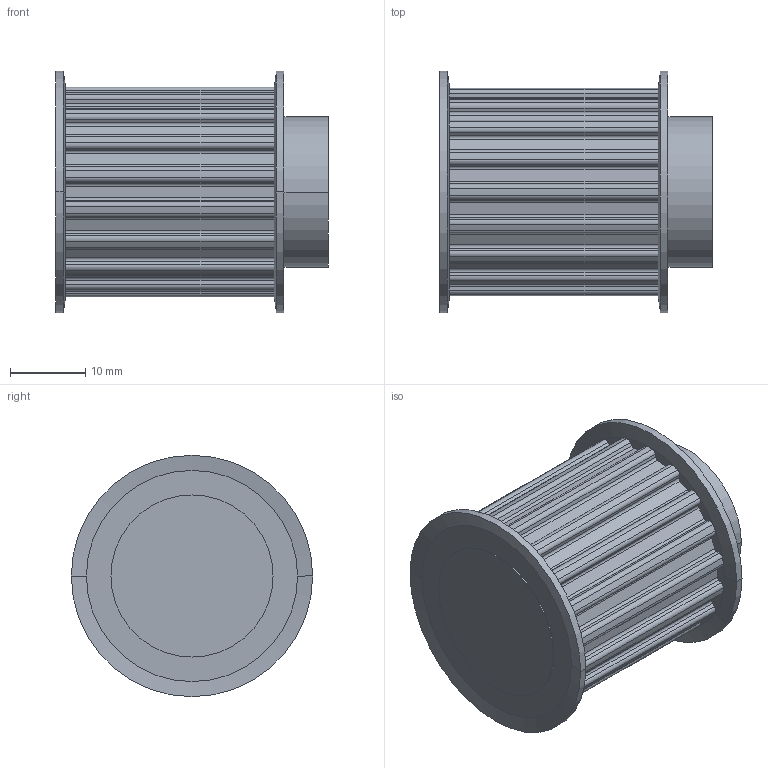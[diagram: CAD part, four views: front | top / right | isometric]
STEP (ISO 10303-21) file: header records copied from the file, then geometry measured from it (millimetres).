
FILE_DESCRIPTION( ( '' ), '1' );
FILE_NAME( 'C:/Users/Stangenbergd/Documents/CAD_Step/1/16241800.stp', '2021-10-19T08:45:35', ( '' ), ( '' ), ' ', ' ', ' ' );
FILE_SCHEMA( ( 'CONFIG_CONTROL_DESIGN' ) );
Length unit declared in the file: millimetre
Products named in the file (1): 1
Bounding box: 36.13 x 32 x 32 mm (x, y, z)
Volume: 18839.9 mm3; surface area: 5737.7 mm2
Topology: 1 solids, 1 shells, 169 faces, 478 edges, 316 vertices
Faces by surface type: cylinder 100, plane 61, cone 8
Entity records: 5600 total; most frequent: DIRECTION 1026, CARTESIAN_POINT 964, ORIENTED_EDGE 956, EDGE_CURVE 478, AXIS2_PLACEMENT_3D 378, VERTEX_POINT 316, LINE 270, VECTOR 270
